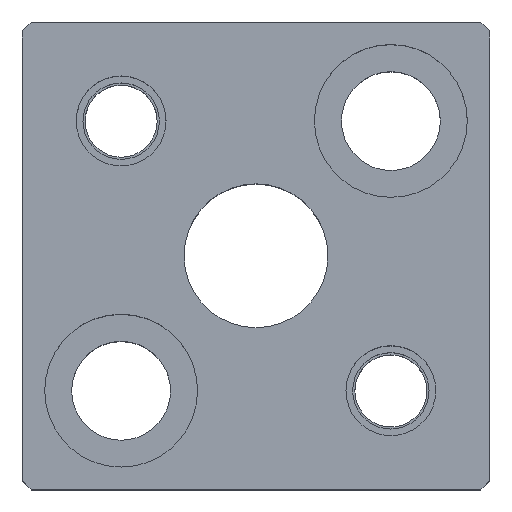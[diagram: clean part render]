
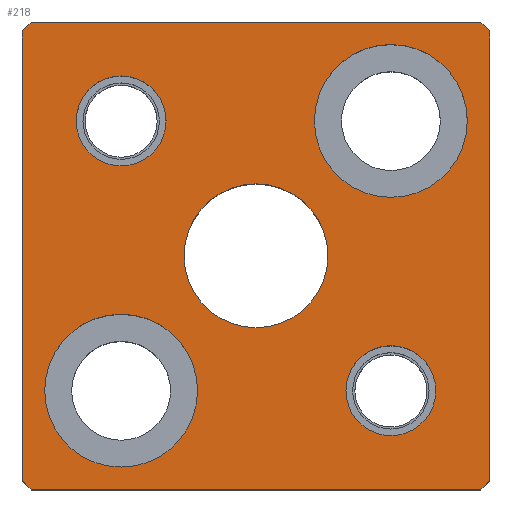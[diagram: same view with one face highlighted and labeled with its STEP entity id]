
A CAD part, top view. The second image highlights one B-rep face of the part: STEP entity #218.
In plain terms, the highlighted planar face has unit normal (0, 0, 1).
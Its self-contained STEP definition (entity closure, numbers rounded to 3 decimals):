
#104=FACE_BOUND('',#328,.T.);
#105=FACE_BOUND('',#329,.T.);
#106=FACE_BOUND('',#330,.T.);
#107=FACE_BOUND('',#331,.T.);
#108=FACE_BOUND('',#332,.T.);
#109=FACE_BOUND('',#333,.T.);
#155=CIRCLE('',#949,8.5);
#157=CIRCLE('',#952,8.5);
#159=CIRCLE('',#956,8.5);
#161=CIRCLE('',#959,8.5);
#163=CIRCLE('',#963,5.);
#164=CIRCLE('',#964,5.);
#165=CIRCLE('',#965,5.);
#166=CIRCLE('',#966,5.);
#167=CIRCLE('',#967,8.);
#168=CIRCLE('',#968,8.);
#218=ADVANCED_FACE('',(#104,#105,#106,#107,#108,#109),#257,.T.);
#257=PLANE('',#969);
#328=EDGE_LOOP('',(#467,#468,#469,#470,#471,#472,#473,#474));
#329=EDGE_LOOP('',(#475,#476));
#330=EDGE_LOOP('',(#477,#478));
#331=EDGE_LOOP('',(#479,#480));
#332=EDGE_LOOP('',(#481,#482));
#333=EDGE_LOOP('',(#483,#484));
#467=ORIENTED_EDGE('',*,*,#692,.T.);
#468=ORIENTED_EDGE('',*,*,#689,.T.);
#469=ORIENTED_EDGE('',*,*,#707,.T.);
#470=ORIENTED_EDGE('',*,*,#704,.T.);
#471=ORIENTED_EDGE('',*,*,#701,.T.);
#472=ORIENTED_EDGE('',*,*,#685,.T.);
#473=ORIENTED_EDGE('',*,*,#682,.T.);
#474=ORIENTED_EDGE('',*,*,#678,.T.);
#475=ORIENTED_EDGE('',*,*,#736,.F.);
#476=ORIENTED_EDGE('',*,*,#737,.F.);
#477=ORIENTED_EDGE('',*,*,#738,.F.);
#478=ORIENTED_EDGE('',*,*,#739,.F.);
#479=ORIENTED_EDGE('',*,*,#734,.F.);
#480=ORIENTED_EDGE('',*,*,#730,.F.);
#481=ORIENTED_EDGE('',*,*,#728,.F.);
#482=ORIENTED_EDGE('',*,*,#724,.F.);
#483=ORIENTED_EDGE('',*,*,#740,.T.);
#484=ORIENTED_EDGE('',*,*,#741,.T.);
#601=VERTEX_POINT('',#1286);
#602=VERTEX_POINT('',#1288);
#605=VERTEX_POINT('',#1296);
#607=VERTEX_POINT('',#1302);
#610=VERTEX_POINT('',#1309);
#611=VERTEX_POINT('',#1311);
#618=VERTEX_POINT('',#1334);
#620=VERTEX_POINT('',#1340);
#631=VERTEX_POINT('',#1379);
#632=VERTEX_POINT('',#1380);
#635=VERTEX_POINT('',#1392);
#636=VERTEX_POINT('',#1393);
#639=VERTEX_POINT('',#1405);
#640=VERTEX_POINT('',#1406);
#641=VERTEX_POINT('',#1409);
#642=VERTEX_POINT('',#1410);
#643=VERTEX_POINT('',#1413);
#644=VERTEX_POINT('',#1414);
#678=EDGE_CURVE('',#602,#601,#794,.T.);
#682=EDGE_CURVE('',#605,#602,#798,.T.);
#685=EDGE_CURVE('',#607,#605,#801,.T.);
#689=EDGE_CURVE('',#611,#610,#805,.T.);
#692=EDGE_CURVE('',#601,#611,#808,.T.);
#701=EDGE_CURVE('',#618,#607,#817,.T.);
#704=EDGE_CURVE('',#620,#618,#820,.T.);
#707=EDGE_CURVE('',#610,#620,#823,.T.);
#724=EDGE_CURVE('',#631,#632,#155,.T.);
#728=EDGE_CURVE('',#632,#631,#157,.T.);
#730=EDGE_CURVE('',#635,#636,#159,.T.);
#734=EDGE_CURVE('',#636,#635,#161,.T.);
#736=EDGE_CURVE('',#639,#640,#163,.T.);
#737=EDGE_CURVE('',#640,#639,#164,.T.);
#738=EDGE_CURVE('',#641,#642,#165,.T.);
#739=EDGE_CURVE('',#642,#641,#166,.T.);
#740=EDGE_CURVE('',#643,#644,#167,.T.);
#741=EDGE_CURVE('',#644,#643,#168,.T.);
#794=LINE('',#1287,#860);
#798=LINE('',#1295,#864);
#801=LINE('',#1301,#867);
#805=LINE('',#1310,#871);
#808=LINE('',#1316,#874);
#817=LINE('',#1333,#883);
#820=LINE('',#1339,#886);
#823=LINE('',#1345,#889);
#860=VECTOR('',#1025,1.);
#864=VECTOR('',#1031,1.);
#867=VECTOR('',#1036,1.);
#871=VECTOR('',#1042,1.);
#874=VECTOR('',#1047,1.);
#883=VECTOR('',#1062,1.);
#886=VECTOR('',#1067,1.);
#889=VECTOR('',#1072,1.);
#949=AXIS2_PLACEMENT_3D('',#1378,#1111,#1112);
#952=AXIS2_PLACEMENT_3D('',#1387,#1119,#1120);
#956=AXIS2_PLACEMENT_3D('',#1391,#1127,#1128);
#959=AXIS2_PLACEMENT_3D('',#1400,#1135,#1136);
#963=AXIS2_PLACEMENT_3D('',#1404,#1143,#1144);
#964=AXIS2_PLACEMENT_3D('',#1407,#1145,#1146);
#965=AXIS2_PLACEMENT_3D('',#1408,#1147,#1148);
#966=AXIS2_PLACEMENT_3D('',#1411,#1149,#1150);
#967=AXIS2_PLACEMENT_3D('',#1412,#1151,#1152);
#968=AXIS2_PLACEMENT_3D('',#1415,#1153,#1154);
#969=AXIS2_PLACEMENT_3D('',#1416,#1155,#1156);
#1025=DIRECTION('',(1.,0.,0.));
#1031=DIRECTION('',(0.707,-0.707,0.));
#1036=DIRECTION('',(0.,-1.,0.));
#1042=DIRECTION('',(0.,1.,0.));
#1047=DIRECTION('',(0.707,0.707,0.));
#1062=DIRECTION('',(-0.707,-0.707,0.));
#1067=DIRECTION('',(-1.,0.,0.));
#1072=DIRECTION('',(-0.707,0.707,0.));
#1111=DIRECTION('',(0.,0.,1.));
#1112=DIRECTION('',(-1.,0.,0.));
#1119=DIRECTION('',(0.,0.,1.));
#1120=DIRECTION('',(1.,0.,0.));
#1127=DIRECTION('',(0.,0.,1.));
#1128=DIRECTION('',(-1.,0.,0.));
#1135=DIRECTION('',(0.,0.,1.));
#1136=DIRECTION('',(1.,0.,0.));
#1143=DIRECTION('',(0.,0.,1.));
#1144=DIRECTION('',(1.,0.,0.));
#1145=DIRECTION('',(0.,0.,1.));
#1146=DIRECTION('',(-1.,0.,0.));
#1147=DIRECTION('',(0.,0.,1.));
#1148=DIRECTION('',(1.,0.,0.));
#1149=DIRECTION('',(0.,0.,1.));
#1150=DIRECTION('',(-1.,0.,0.));
#1151=DIRECTION('',(0.,0.,-1.));
#1152=DIRECTION('',(-1.,0.,0.));
#1153=DIRECTION('',(0.,0.,-1.));
#1154=DIRECTION('',(1.,0.,0.));
#1155=DIRECTION('',(0.,0.,1.));
#1156=DIRECTION('',(-1.,0.,0.));
#1286=CARTESIAN_POINT('',(25.,-26.,30.));
#1287=CARTESIAN_POINT('',(-25.,-26.,30.));
#1288=CARTESIAN_POINT('',(-25.,-26.,30.));
#1295=CARTESIAN_POINT('',(-25.,-26.,30.));
#1296=CARTESIAN_POINT('',(-26.,-25.,30.));
#1301=CARTESIAN_POINT('',(-26.,25.,30.));
#1302=CARTESIAN_POINT('',(-26.,25.,30.));
#1309=CARTESIAN_POINT('',(26.,25.,30.));
#1310=CARTESIAN_POINT('',(26.,25.,30.));
#1311=CARTESIAN_POINT('',(26.,-25.,30.));
#1316=CARTESIAN_POINT('',(26.,-25.,30.));
#1333=CARTESIAN_POINT('',(-26.,25.,30.));
#1334=CARTESIAN_POINT('',(-25.,26.,30.));
#1339=CARTESIAN_POINT('',(-25.,26.,30.));
#1340=CARTESIAN_POINT('',(25.,26.,30.));
#1345=CARTESIAN_POINT('',(25.,26.,30.));
#1378=CARTESIAN_POINT('',(-15.,-15.,30.));
#1379=CARTESIAN_POINT('',(-15.,-23.5,30.));
#1380=CARTESIAN_POINT('',(-15.,-6.5,30.));
#1387=CARTESIAN_POINT('',(-15.,-15.,30.));
#1391=CARTESIAN_POINT('',(15.,15.,30.));
#1392=CARTESIAN_POINT('',(15.,6.5,30.));
#1393=CARTESIAN_POINT('',(15.,23.5,30.));
#1400=CARTESIAN_POINT('',(15.,15.,30.));
#1404=CARTESIAN_POINT('',(-15.,15.,30.));
#1405=CARTESIAN_POINT('',(-15.,20.,30.));
#1406=CARTESIAN_POINT('',(-15.,10.,30.));
#1407=CARTESIAN_POINT('',(-15.,15.,30.));
#1408=CARTESIAN_POINT('',(15.,-15.,30.));
#1409=CARTESIAN_POINT('',(15.,-10.,30.));
#1410=CARTESIAN_POINT('',(15.,-20.,30.));
#1411=CARTESIAN_POINT('',(15.,-15.,30.));
#1412=CARTESIAN_POINT('',(0.,0.,30.));
#1413=CARTESIAN_POINT('',(0.,8.,30.));
#1414=CARTESIAN_POINT('',(0.,-8.,30.));
#1415=CARTESIAN_POINT('',(0.,0.,30.));
#1416=CARTESIAN_POINT('',(25.,-26.,30.));
